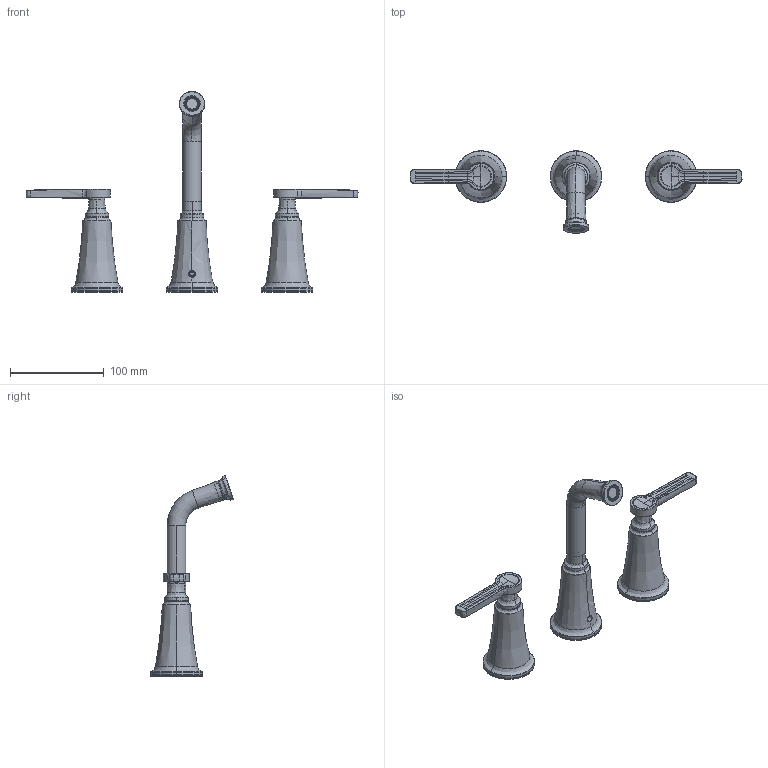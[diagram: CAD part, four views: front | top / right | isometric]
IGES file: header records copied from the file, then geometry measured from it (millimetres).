
Start section: SolidWorks IGES file using analytic representation for surfaces
Global section: file name: C:\Users\ccai\Desktop\CeliaC\Projects\ADHOC-02340+02341 NF LINEART\TMMSQ03J\SKU_TMMSQ03Jseries_IGS\TMMSQ03JSERIES.IGS; native system: SolidWorks 2023; preprocessor: SolidWorks 2023; author: ccai; date: 250819.140021; units: millimetre
Bounding box: 354.54 x 88.27 x 214.44 mm (x, y, z)
Volume: 190183.2 mm3; surface area: 126330.2 mm2
Topology: 24 solids, 24 shells, 902 faces, 2118 edges, 1319 vertices
Faces by surface type: revolution 448, plane 258, bspline 196
